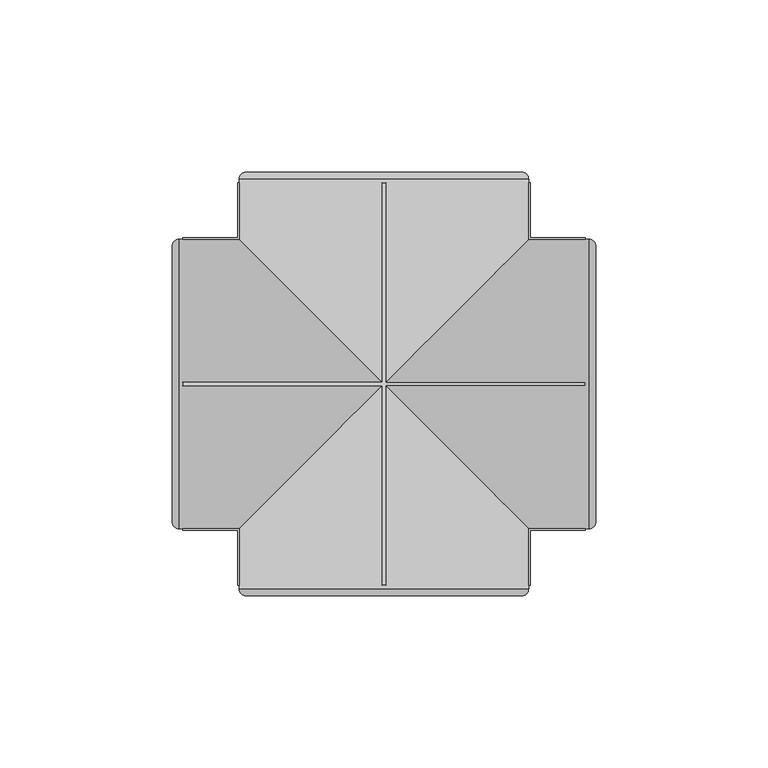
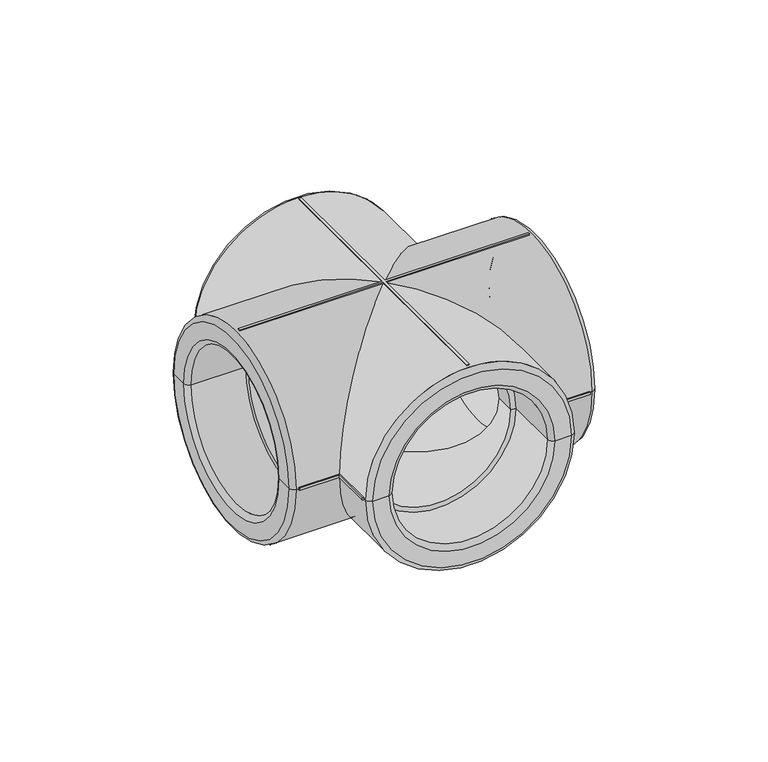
"""IFC4 building model written with IfcOpenShell, lengths in millimetres: pipe fitting geometry, EGB_VASEN_ PPR_Cruz WXR400 : EGB_VASEN_ PPR_Cruz WXR400."""

from ifc_helpers import new_model, si_unit, point, frame, origin, place, context, project, spatial, polyline, circle_curve, ellipse_curve, trimmed, source, transform, mapped, element, save
from ifc_brep_helpers import plane_surface, cylinder_surface, revolved_surface, advanced_brep


def pipe_fitting_be5e79b2(model_context):
    return source(origin(), model_context, "Body", "AdvancedBrep", [
        advanced_brep(
        [(-42.5, -58.5, 0.5), (-42.5, -58.5, -0.5), (-41.9970237, -58.5, -0.5), (-42.0, -58.5, 0.0), (-41.9970237, -58.5, 0.5), (42.5, -58.5, -0.5), (42.5, -58.5, 0.5), (41.9970237, -58.5, 0.5), (42.0, -58.5, 0.0), (41.9970237, -58.5, -0.5), (42.5, 58.5, 0.5), (42.5, 58.5, -0.5), (41.9970237, 58.5, -0.5), (42.0, 58.5, 0.0), (41.9970237, 58.5, 0.5), (-42.5, 58.5, -0.5), (-42.5, 58.5, 0.5), (-41.9970237, 58.5, 0.5), (-42.0, 58.5, 0.0), (-41.9970237, 58.5, -0.5), (42.5, -42.5, -0.5), (42.5, -42.5, 0.5), (42.5, 42.5, 0.5), (42.5, 42.5, -0.5), (41.9970237, -41.9970237, -0.5), (58.5, -41.9970237, -0.5), (58.5, -42.5, -0.5), (58.5, 42.5, -0.5), (58.5, 41.9970237, -0.5), (41.9970237, 41.9970237, -0.5), (-42.5, -42.5, -0.5), (-58.5, -42.5, -0.5), (-58.5, -41.9970237, -0.5), (-41.9970237, -41.9970237, -0.5), (-42.5, 42.5, -0.5), (-41.9970237, 41.9970237, -0.5), (-58.5, 41.9970237, -0.5), (-58.5, 42.5, -0.5), (-42.5, -42.5, 0.5), (-42.5, 42.5, 0.5), (58.5, -42.5, 0.5), (58.5, -41.9970237, 0.5), (41.9970237, -41.9970237, 0.5), (41.9970237, 41.9970237, 0.5), (58.5, 41.9970237, 0.5), (58.5, 42.5, 0.5), (-41.9970237, -41.9970237, 0.5), (-58.5, -41.9970237, 0.5), (-58.5, -42.5, 0.5), (-58.5, 42.5, 0.5), (-58.5, 41.9970237, 0.5), (-41.9970237, 41.9970237, 0.5), (58.5, -42.0, 0.0), (58.5, 42.0, 0.0), (-58.5, 42.0, 0.0), (-58.5, -42.0, 0.0), (-40.0000002, 61.5, 0.0), (-33.5, 61.5, 0.0), (33.5, 61.5, 0.0), (40.0, 61.5, 0.0), (42.0, -59.5000012, 0.0), (-42.0, -59.5, 0.0), (-0.5, -0.5, -41.9970237), (-0.5, -58.5, -41.9970237), (0.5, -58.5, -41.9970237), (0.5, -0.5, -41.9970237), (-42.0, 59.5, 0.0), (42.0, 59.5, 0.0), (0.5, 0.5, -41.9970237), (0.5, 58.5, -41.9970237), (-0.5, 58.5, -41.9970237), (-0.5, 0.5, -41.9970237), (0.5, -0.5, 41.9970237), (0.5, -58.5, 41.9970237), (-0.5, -58.5, 41.9970237), (-0.5, -0.5, 41.9970237), (-0.5, 0.5, 41.9970237), (-0.5, 58.5, 41.9970237), (0.5, 58.5, 41.9970237), (0.5, 0.5, 41.9970237), (40.0, -61.5, 0.0), (33.5, -61.5, 0.0), (-33.5, -61.5, 0.0), (-40.0, -61.5, 0.0), (59.5, 42.0, 0.0), (59.5, -42.0, 0.0), (58.5, -0.5, -41.9970237), (58.5, 0.5, -41.9970237), (-58.5, 0.5, -41.9970237), (-58.5, -0.5, -41.9970237), (-59.5000011, -42.0, 0.0), (-59.5, 42.0, 0.0), (58.5, 0.5, 41.9970237), (58.5, -0.5, 41.9970237), (-58.5, -0.5, 41.9970237), (-58.5, 0.5, 41.9970237), (-61.5, -40.0, 0.0), (-61.5, -33.5, 0.0), (-61.5, 33.5, 0.0), (-61.5, 40.0, 0.0), (61.5, 40.0000002, 0.0), (61.5, 33.5, 0.0), (61.5, -33.5, 0.0), (61.5, -40.0, 0.0), (58.5, 0.5, 42.5), (58.5, -0.5, 42.5), (58.5, -0.5, -42.5), (58.5, 0.5, -42.5), (-58.5, 0.5, -42.5), (-58.5, -0.5, -42.5), (-58.5, -0.5, 42.5), (-58.5, 0.5, 42.5), (0.5, 0.5, 42.5), (0.5, 58.5, 42.5), (-0.5, 58.5, 42.5), (-0.5, 0.5, 42.5), (-0.5, -0.5, 42.5), (-0.5, -58.5, 42.5), (0.5, -58.5, 42.5), (0.5, -0.5, 42.5), (0.5, -0.5, -42.5), (-0.5, -0.5, -42.5), (0.5, -58.5, -42.5), (-0.5, -58.5, -42.5), (-0.5, 0.5, -42.5), (-0.5, 58.5, -42.5), (0.5, 58.5, -42.5), (0.5, 0.5, -42.5), (31.5, -37.5, 0.0), (29.5, -37.5, 0.0), (-29.5, -37.5, 0.0), (-31.5, -37.5, 0.0), (-31.5, -59.5, 0.0), (31.5, -59.5, 0.0), (31.5, 59.5, 0.0), (-31.5, 59.5, 0.0), (-31.5, 37.5, 0.0), (31.5, 37.5, 0.0), (-29.5, 37.5, 0.0), (29.5, 37.5, 0.0), (29.5, -29.5, 0.0), (0.0, 0.0, -29.5), (-29.5, -29.5, 0.0), (-29.5, 29.5, 0.0), (29.5, 29.5, 0.0), (0.0, 0.0, 29.5), (59.5, -31.5, 0.0), (59.5, 31.5, 0.0), (37.5, 31.5, 0.0), (37.5, -31.5, 0.0), (37.5, 29.5, 0.0), (37.5, -29.5, 0.0), (-37.5, 29.5, 0.0), (-37.5, -29.5, 0.0), (-37.5, 31.5, 0.0), (-37.5, -31.5, 0.0), (-59.5, 31.5, 0.0), (-59.5, -31.5, 0.0)],
        [
            (0, 1),
            (1, 2),
            (2, 3, circle_curve(frame((0.0, -58.5, 0.0), z_axis=(0.0, 1.0, 0.0), x_axis=(-1.0, 0.0, 0.0)), 42.0)),
            (3, 4, circle_curve(frame((0.0, -58.5, 0.0), z_axis=(0.0, 1.0, 0.0), x_axis=(-1.0, 0.0, 0.0)), 42.0)),
            (4, 0),
            (5, 6),
            (6, 7),
            (7, 8, circle_curve(frame((0.0, -58.5, 0.0), z_axis=(0.0, 1.0, 0.0), x_axis=(-1.0, 0.0, 0.0)), 42.0)),
            (8, 9, circle_curve(frame((0.0, -58.5, 0.0), z_axis=(0.0, 1.0, 0.0), x_axis=(-1.0, 0.0, 0.0)), 42.0)),
            (9, 5),
            (10, 11),
            (11, 12),
            (12, 13, circle_curve(frame((0.0, 58.5, 0.0), z_axis=(0.0, -1.0, 0.0), x_axis=(-1.0, 0.0, 0.0)), 42.0)),
            (13, 14, circle_curve(frame((0.0, 58.5, 0.0), z_axis=(0.0, -1.0, 0.0), x_axis=(-1.0, 0.0, 0.0)), 42.0)),
            (14, 10),
            (15, 16),
            (16, 17),
            (17, 18, circle_curve(frame((0.0, 58.5, 0.0), z_axis=(0.0, -1.0, 0.0), x_axis=(-1.0, 0.0, 0.0)), 42.0)),
            (18, 19, circle_curve(frame((0.0, 58.5, 0.0), z_axis=(0.0, -1.0, 0.0), x_axis=(-1.0, 0.0, 0.0)), 42.0)),
            (19, 15),
            (5, 20),
            (20, 21),
            (21, 6),
            (10, 22),
            (22, 23),
            (23, 11),
            (9, 24),
            (24, 25),
            (25, 26),
            (26, 20),
            (23, 27),
            (27, 28),
            (28, 29),
            (29, 12),
            (1, 30),
            (30, 31),
            (31, 32),
            (32, 33),
            (33, 2),
            (34, 15),
            (19, 35),
            (35, 36),
            (36, 37),
            (37, 34),
            (0, 38),
            (38, 30),
            (34, 39),
            (39, 16),
            (21, 40),
            (40, 41),
            (41, 42),
            (42, 7),
            (14, 43),
            (43, 44),
            (44, 45),
            (45, 22),
            (4, 46),
            (46, 47),
            (47, 48),
            (48, 38),
            (39, 49),
            (49, 50),
            (50, 51),
            (51, 17),
            (40, 26),
            (25, 52, circle_curve(frame((58.5, 0.0, 0.0), z_axis=(-1.0, 0.0, 0.0), x_axis=(0.0, 1.0, 0.0)), 42.0)),
            (52, 41, circle_curve(frame((58.5, 0.0, 0.0), z_axis=(-1.0, 0.0, 0.0), x_axis=(0.0, 1.0, 0.0)), 42.0)),
            (27, 45),
            (44, 53, circle_curve(frame((58.5, 0.0, 0.0), z_axis=(-1.0, 0.0, 0.0), x_axis=(0.0, 1.0, 0.0)), 42.0)),
            (53, 28, circle_curve(frame((58.5, 0.0, 0.0), z_axis=(-1.0, 0.0, 0.0), x_axis=(0.0, 1.0, 0.0)), 42.0)),
            (49, 37),
            (36, 54, circle_curve(frame((-58.5, 0.0, 0.0), z_axis=(1.0, 0.0, 0.0), x_axis=(0.0, 1.0, 0.0)), 42.0)),
            (54, 50, circle_curve(frame((-58.5, 0.0, 0.0), z_axis=(1.0, 0.0, 0.0), x_axis=(0.0, 1.0, 0.0)), 42.0)),
            (31, 48),
            (47, 55, circle_curve(frame((-58.5, 0.0, 0.0), z_axis=(1.0, 0.0, 0.0), x_axis=(0.0, 1.0, 0.0)), 42.0)),
            (55, 32, circle_curve(frame((-58.5, 0.0, 0.0), z_axis=(1.0, 0.0, 0.0), x_axis=(0.0, 1.0, 0.0)), 42.0)),
            (56, 57),
            (57, 58, circle_curve(frame((0.0, 61.5, 0.0), z_axis=(0.0, -1.0, 0.0), x_axis=(-1.0, 0.0, 0.0)), 33.5)),
            (58, 59),
            (59, 56, circle_curve(frame((0.0, 61.5, 0.0), z_axis=(0.0, 1.0, 0.0), x_axis=(-1.0, 0.0, 0.0)), 40.0)),
            (56, 59, circle_curve(frame((0.0, 61.5, 0.0), z_axis=(0.0, 1.0, 0.0), x_axis=(-1.0, 0.0, 0.0)), 40.0)),
            (58, 57, circle_curve(frame((0.0, 61.5, 0.0), z_axis=(0.0, -1.0, 0.0), x_axis=(-1.0, 0.0, 0.0)), 33.5)),
            (8, 60),
            (60, 61, circle_curve(frame((0.0, -59.5, 0.0), z_axis=(0.0, 1.0, 0.0), x_axis=(-1.0, 0.0, 0.0)), 42.0)),
            (61, 3),
            (33, 62, ellipse_curve(frame((0.0, 0.0, 0.0), z_axis=(0.7071067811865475, -0.7071067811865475, 0.0), x_axis=(-0.7071067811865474, -0.7071067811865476, 0.0)), 59.3969696, 42.0)),
            (62, 63),
            (63, 64, circle_curve(frame((0.0, -58.5, 0.0), z_axis=(0.0, -1.0, 0.0), x_axis=(-1.0, 0.0, 0.0)), 42.0)),
            (64, 65),
            (65, 24, ellipse_curve(frame((0.0, 0.0, 0.0), z_axis=(-0.7071067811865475, -0.7071067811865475, 0.0), x_axis=(0.7071067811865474, -0.7071067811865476, 0.0)), 59.3969696, 42.0)),
            (18, 66),
            (66, 67, circle_curve(frame((0.0, 59.5, 0.0), z_axis=(0.0, -1.0, 0.0), x_axis=(-1.0, 0.0, 0.0)), 42.0)),
            (67, 13),
            (29, 68, ellipse_curve(frame((0.0, 0.0, 0.0), z_axis=(-0.7071067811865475, 0.7071067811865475, 0.0), x_axis=(-0.7071067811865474, -0.7071067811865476, 0.0)), 59.3969696, 42.0)),
            (68, 69),
            (69, 70, circle_curve(frame((0.0, 58.5, 0.0), z_axis=(0.0, 1.0, 0.0), x_axis=(-1.0, 0.0, 0.0)), 42.0)),
            (70, 71),
            (71, 35, ellipse_curve(frame((0.0, 0.0, 0.0), z_axis=(0.7071067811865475, 0.7071067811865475, 0.0), x_axis=(0.7071067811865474, -0.7071067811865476, 0.0)), 59.3969696, 42.0)),
            (61, 60, circle_curve(frame((0.0, -59.5, 0.0), z_axis=(0.0, 1.0, 0.0), x_axis=(-1.0, 0.0, 0.0)), 42.0)),
            (42, 72, ellipse_curve(frame((0.0, 0.0, 0.0), z_axis=(-0.7071067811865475, -0.7071067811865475, 0.0), x_axis=(0.7071067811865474, -0.7071067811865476, 0.0)), 59.3969696, 42.0)),
            (72, 73),
            (73, 74, circle_curve(frame((0.0, -58.5, 0.0), z_axis=(0.0, -1.0, 0.0), x_axis=(-1.0, 0.0, 0.0)), 42.0)),
            (74, 75),
            (75, 46, ellipse_curve(frame((0.0, 0.0, 0.0), z_axis=(0.7071067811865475, -0.7071067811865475, 0.0), x_axis=(-0.7071067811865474, -0.7071067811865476, 0.0)), 59.3969696, 42.0)),
            (67, 66, circle_curve(frame((0.0, 59.5, 0.0), z_axis=(0.0, -1.0, 0.0), x_axis=(-1.0, 0.0, 0.0)), 42.0)),
            (51, 76, ellipse_curve(frame((0.0, 0.0, 0.0), z_axis=(0.7071067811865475, 0.7071067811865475, 0.0), x_axis=(0.7071067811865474, -0.7071067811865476, 0.0)), 59.3969696, 42.0)),
            (76, 77),
            (77, 78, circle_curve(frame((0.0, 58.5, 0.0), z_axis=(0.0, 1.0, 0.0), x_axis=(-1.0, 0.0, 0.0)), 42.0)),
            (78, 79),
            (79, 43, ellipse_curve(frame((0.0, 0.0, 0.0), z_axis=(-0.7071067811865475, 0.7071067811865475, 0.0), x_axis=(-0.7071067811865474, -0.7071067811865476, 0.0)), 59.3969696, 42.0)),
            (80, 81),
            (81, 82, circle_curve(frame((0.0, -61.5, 0.0), z_axis=(0.0, 1.0, 0.0), x_axis=(-1.0, 0.0, 0.0)), 33.5)),
            (82, 83),
            (83, 80, circle_curve(frame((0.0, -61.5, 0.0), z_axis=(0.0, -1.0, 0.0), x_axis=(-1.0, 0.0, 0.0)), 40.0)),
            (80, 83, circle_curve(frame((0.0, -61.5, 0.0), z_axis=(0.0, -1.0, 0.0), x_axis=(-1.0, 0.0, 0.0)), 40.0)),
            (82, 81, circle_curve(frame((0.0, -61.5, 0.0), z_axis=(0.0, 1.0, 0.0), x_axis=(-1.0, 0.0, 0.0)), 33.5)),
            (53, 84),
            (84, 85, circle_curve(frame((59.5, 0.0, 0.0), z_axis=(-1.0, 0.0, 0.0), x_axis=(0.0, 1.0, 0.0)), 42.0)),
            (85, 52),
            (65, 86),
            (86, 87, circle_curve(frame((58.5, 0.0, 0.0), z_axis=(1.0, 0.0, 0.0), x_axis=(0.0, 1.0, 0.0)), 42.0)),
            (87, 68),
            (71, 88),
            (88, 89, circle_curve(frame((-58.5, 0.0, 0.0), z_axis=(-1.0, 0.0, 0.0), x_axis=(0.0, 1.0, 0.0)), 42.0)),
            (89, 62),
            (55, 90),
            (90, 91, circle_curve(frame((-59.5, 0.0, 0.0), z_axis=(1.0, 0.0, 0.0), x_axis=(0.0, 1.0, 0.0)), 42.0)),
            (91, 54),
            (79, 92),
            (92, 93, circle_curve(frame((58.5, 0.0, 0.0), z_axis=(1.0, 0.0, 0.0), x_axis=(0.0, 1.0, 0.0)), 42.0)),
            (93, 72),
            (85, 84, circle_curve(frame((59.5, 0.0, 0.0), z_axis=(-1.0, 0.0, 0.0), x_axis=(0.0, 1.0, 0.0)), 42.0)),
            (91, 90, circle_curve(frame((-59.5, 0.0, 0.0), z_axis=(1.0, 0.0, 0.0), x_axis=(0.0, 1.0, 0.0)), 42.0)),
            (75, 94),
            (94, 95, circle_curve(frame((-58.5, 0.0, 0.0), z_axis=(-1.0, 0.0, 0.0), x_axis=(0.0, 1.0, 0.0)), 42.0)),
            (95, 76),
            (96, 97),
            (97, 98, circle_curve(frame((-61.5, 0.0, 0.0), z_axis=(1.0, 0.0, 0.0), x_axis=(0.0, 1.0, 0.0)), 33.5)),
            (98, 99),
            (99, 96, circle_curve(frame((-61.5, 0.0, 0.0), z_axis=(-1.0, 0.0, 0.0), x_axis=(0.0, 1.0, 0.0)), 40.0)),
            (96, 99, circle_curve(frame((-61.5, 0.0, 0.0), z_axis=(-1.0, 0.0, 0.0), x_axis=(0.0, 1.0, 0.0)), 40.0)),
            (98, 97, circle_curve(frame((-61.5, 0.0, 0.0), z_axis=(1.0, 0.0, 0.0), x_axis=(0.0, 1.0, 0.0)), 33.5)),
            (100, 101),
            (101, 102, circle_curve(frame((61.5, 0.0, 0.0), z_axis=(-1.0, 0.0, 0.0), x_axis=(0.0, 1.0, 0.0)), 33.5)),
            (102, 103),
            (103, 100, circle_curve(frame((61.5, 0.0, 0.0), z_axis=(1.0, 0.0, 0.0), x_axis=(0.0, 1.0, 0.0)), 40.0)),
            (100, 103, circle_curve(frame((61.5, 0.0, 0.0), z_axis=(1.0, 0.0, 0.0), x_axis=(0.0, 1.0, 0.0)), 40.0)),
            (102, 101, circle_curve(frame((61.5, 0.0, 0.0), z_axis=(-1.0, 0.0, 0.0), x_axis=(0.0, 1.0, 0.0)), 33.5)),
            (104, 105),
            (105, 93),
            (92, 104),
            (106, 107),
            (107, 87),
            (86, 106),
            (108, 109),
            (109, 89),
            (88, 108),
            (110, 111),
            (111, 95),
            (94, 110),
            (104, 112),
            (112, 113),
            (113, 114),
            (114, 115),
            (115, 111),
            (110, 116),
            (116, 117),
            (117, 118),
            (118, 119),
            (119, 105),
            (119, 72),
            (65, 120),
            (120, 106),
            (109, 121),
            (121, 62),
            (75, 116),
            (120, 122),
            (122, 123),
            (123, 121),
            (108, 124),
            (124, 125),
            (125, 126),
            (126, 127),
            (127, 107),
            (79, 112),
            (127, 68),
            (71, 124),
            (115, 76),
            (117, 74),
            (73, 118),
            (122, 64),
            (63, 123),
            (113, 78),
            (77, 114),
            (125, 70),
            (69, 126),
            (128, 129),
            (129, 130, circle_curve(frame((0.0, -37.5, 0.0), z_axis=(0.0, 1.0, 0.0), x_axis=(-1.0, 0.0, 0.0)), 29.5)),
            (130, 131),
            (131, 128, circle_curve(frame((0.0, -37.5, 0.0), z_axis=(0.0, -1.0, 0.0), x_axis=(-1.0, 0.0, 0.0)), 31.5)),
            (128, 131, circle_curve(frame((0.0, -37.5, 0.0), z_axis=(0.0, -1.0, 0.0), x_axis=(-1.0, 0.0, 0.0)), 31.5)),
            (130, 129, circle_curve(frame((0.0, -37.5, 0.0), z_axis=(0.0, 1.0, 0.0), x_axis=(-1.0, 0.0, 0.0)), 29.5)),
            (131, 132),
            (132, 133, circle_curve(frame((0.0, -59.5, 0.0), z_axis=(0.0, -1.0, 0.0), x_axis=(-1.0, 0.0, 0.0)), 31.5)),
            (133, 128),
            (133, 132, circle_curve(frame((0.0, -59.5, 0.0), z_axis=(0.0, -1.0, 0.0), x_axis=(-1.0, 0.0, 0.0)), 31.5)),
            (132, 82, circle_curve(frame((-33.5, -59.5, 0.0), z_axis=(0.0, 0.0, -1.0), x_axis=(1.0, 0.0, 0.0)), 2.0)),
            (81, 133, circle_curve(frame((33.5, -59.5, 0.0), z_axis=(0.0, 0.0, -1.0), x_axis=(-1.0, 0.0, 0.0)), 2.0)),
            (134, 58, circle_curve(frame((33.5, 59.5, 0.0), z_axis=(0.0, 0.0, -1.0), x_axis=(-1.0, 0.0, 0.0)), 2.0)),
            (57, 135, circle_curve(frame((-33.5, 59.5, 0.0), z_axis=(0.0, 0.0, -1.0), x_axis=(1.0, 0.0, 0.0)), 2.0)),
            (135, 134, circle_curve(frame((0.0, 59.5, 0.0), z_axis=(0.0, -1.0, 0.0), x_axis=(-1.0, 0.0, 0.0)), 31.5)),
            (134, 135, circle_curve(frame((0.0, 59.5, 0.0), z_axis=(0.0, -1.0, 0.0), x_axis=(-1.0, 0.0, 0.0)), 31.5)),
            (135, 136),
            (136, 137, circle_curve(frame((0.0, 37.5, 0.0), z_axis=(0.0, -1.0, 0.0), x_axis=(-1.0, 0.0, 0.0)), 31.5)),
            (137, 134),
            (137, 136, circle_curve(frame((0.0, 37.5, 0.0), z_axis=(0.0, -1.0, 0.0), x_axis=(-1.0, 0.0, 0.0)), 31.5)),
            (136, 138),
            (138, 139, circle_curve(frame((0.0, 37.5, 0.0), z_axis=(0.0, -1.0, 0.0), x_axis=(-1.0, 0.0, 0.0)), 29.5)),
            (139, 137),
            (139, 138, circle_curve(frame((0.0, 37.5, 0.0), z_axis=(0.0, -1.0, 0.0), x_axis=(-1.0, 0.0, 0.0)), 29.5)),
            (129, 140),
            (140, 141, ellipse_curve(frame((0.0, 0.0, 0.0), z_axis=(0.7071067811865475, 0.7071067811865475, 0.0), x_axis=(0.7071067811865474, -0.7071067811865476, 0.0)), 41.7193001, 29.5)),
            (141, 142, ellipse_curve(frame((0.0, 0.0, 0.0), z_axis=(-0.7071067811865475, 0.7071067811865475, 0.0), x_axis=(-0.7071067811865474, -0.7071067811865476, 0.0)), 41.7193001, 29.5)),
            (142, 130),
            (138, 143),
            (143, 141, ellipse_curve(frame((0.0, 0.0, 0.0), z_axis=(-0.7071067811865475, -0.7071067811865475, 0.0), x_axis=(0.7071067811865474, -0.7071067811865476, 0.0)), 41.7193001, 29.5)),
            (141, 144, ellipse_curve(frame((0.0, 0.0, 0.0), z_axis=(0.7071067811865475, -0.7071067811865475, 0.0), x_axis=(-0.7071067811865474, -0.7071067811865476, 0.0)), 41.7193001, 29.5)),
            (144, 139),
            (142, 145, ellipse_curve(frame((0.0, 0.0, 0.0), z_axis=(-0.7071067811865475, 0.7071067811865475, 0.0), x_axis=(-0.7071067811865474, -0.7071067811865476, 0.0)), 41.7193001, 29.5)),
            (145, 140, ellipse_curve(frame((0.0, 0.0, 0.0), z_axis=(0.7071067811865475, 0.7071067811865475, 0.0), x_axis=(0.7071067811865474, -0.7071067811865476, 0.0)), 41.7193001, 29.5)),
            (144, 145, ellipse_curve(frame((0.0, 0.0, 0.0), z_axis=(0.7071067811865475, -0.7071067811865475, 0.0), x_axis=(-0.7071067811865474, -0.7071067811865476, 0.0)), 41.7193001, 29.5)),
            (145, 143, ellipse_curve(frame((0.0, 0.0, 0.0), z_axis=(-0.7071067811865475, -0.7071067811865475, 0.0), x_axis=(0.7071067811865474, -0.7071067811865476, 0.0)), 41.7193001, 29.5)),
            (59, 67, circle_curve(frame((40.0, 59.5, 0.0), z_axis=(0.0, 0.0, -1.0), x_axis=(-1.0, 0.0, 0.0)), 2.0)),
            (66, 56, circle_curve(frame((-40.0, 59.5, 0.0), z_axis=(0.0, 0.0, -1.0), x_axis=(1.0, 0.0, 0.0)), 2.0)),
            (60, 80, circle_curve(frame((40.0, -59.5, 0.0), z_axis=(0.0, 0.0, -1.0), x_axis=(-1.0, 0.0, 0.0)), 2.0)),
            (83, 61, circle_curve(frame((-40.0, -59.5, 0.0), z_axis=(0.0, 0.0, -1.0), x_axis=(1.0, 0.0, 0.0)), 2.0)),
            (103, 85, circle_curve(frame((59.5, -40.0, 0.0), z_axis=(0.0, 0.0, -1.0), x_axis=(1.0, 0.0, 0.0)), 2.0)),
            (84, 100, circle_curve(frame((59.5, 40.0, 0.0), z_axis=(0.0, 0.0, -1.0), x_axis=(1.0, 0.0, 0.0)), 2.0)),
            (146, 102, circle_curve(frame((59.5, -33.5, 0.0), z_axis=(0.0, 0.0, -1.0), x_axis=(1.0, 0.0, 0.0)), 2.0)),
            (101, 147, circle_curve(frame((59.5, 33.5, 0.0), z_axis=(0.0, 0.0, -1.0), x_axis=(1.0, 0.0, 0.0)), 2.0)),
            (147, 146, circle_curve(frame((59.5, 0.0, 0.0), z_axis=(-1.0, 0.0, 0.0), x_axis=(0.0, 1.0, 0.0)), 31.5)),
            (146, 147, circle_curve(frame((59.5, 0.0, 0.0), z_axis=(-1.0, 0.0, 0.0), x_axis=(0.0, 1.0, 0.0)), 31.5)),
            (147, 148),
            (148, 149, circle_curve(frame((37.5, 0.0, 0.0), z_axis=(-1.0, 0.0, 0.0), x_axis=(0.0, 1.0, 0.0)), 31.5)),
            (149, 146),
            (149, 148, circle_curve(frame((37.5, 0.0, 0.0), z_axis=(-1.0, 0.0, 0.0), x_axis=(0.0, 1.0, 0.0)), 31.5)),
            (148, 150),
            (150, 151, circle_curve(frame((37.5, 0.0, 0.0), z_axis=(-1.0, 0.0, 0.0), x_axis=(0.0, 1.0, 0.0)), 29.5)),
            (151, 149),
            (151, 150, circle_curve(frame((37.5, 0.0, 0.0), z_axis=(-1.0, 0.0, 0.0), x_axis=(0.0, 1.0, 0.0)), 29.5)),
            (150, 144),
            (140, 151),
            (152, 153, circle_curve(frame((-37.5, 0.0, 0.0), z_axis=(-1.0, 0.0, 0.0), x_axis=(0.0, 1.0, 0.0)), 29.5)),
            (153, 142),
            (143, 152),
            (153, 152, circle_curve(frame((-37.5, 0.0, 0.0), z_axis=(-1.0, 0.0, 0.0), x_axis=(0.0, 1.0, 0.0)), 29.5)),
            (152, 154),
            (154, 155, circle_curve(frame((-37.5, 0.0, 0.0), z_axis=(-1.0, 0.0, 0.0), x_axis=(0.0, 1.0, 0.0)), 31.5)),
            (155, 153),
            (155, 154, circle_curve(frame((-37.5, 0.0, 0.0), z_axis=(-1.0, 0.0, 0.0), x_axis=(0.0, 1.0, 0.0)), 31.5)),
            (154, 156),
            (156, 157, circle_curve(frame((-59.5, 0.0, 0.0), z_axis=(-1.0, 0.0, 0.0), x_axis=(0.0, 1.0, 0.0)), 31.5)),
            (157, 155),
            (157, 156, circle_curve(frame((-59.5, 0.0, 0.0), z_axis=(-1.0, 0.0, 0.0), x_axis=(0.0, 1.0, 0.0)), 31.5)),
            (156, 98, circle_curve(frame((-59.5, 33.5, 0.0), z_axis=(0.0, 0.0, -1.0), x_axis=(1.0, 0.0, 0.0)), 2.0)),
            (97, 157, circle_curve(frame((-59.5, -33.5, 0.0), z_axis=(0.0, 0.0, -1.0), x_axis=(1.0, 0.0, 0.0)), 2.0)),
            (90, 96, circle_curve(frame((-59.5, -40.0, 0.0), z_axis=(0.0, 0.0, -1.0), x_axis=(1.0, 0.0, 0.0)), 2.0)),
            (99, 91, circle_curve(frame((-59.5, 40.0, 0.0), z_axis=(0.0, 0.0, -1.0), x_axis=(1.0, 0.0, 0.0)), 2.0)),
        ],
        [
            plane_surface(frame((42.5, -58.5, 0.5), z_axis=(0.0, -1.0, 0.0), x_axis=(0.0, 0.0, 1.0))),
            plane_surface(frame((42.5, 58.5, 0.5), z_axis=(0.0, 1.0, 0.0), x_axis=(0.0, 0.0, -1.0))),
            plane_surface(frame((42.5, 58.5, 0.5), z_axis=(1.0, 0.0, 0.0), x_axis=(0.0, -1.0, 0.0))),
            plane_surface(frame((42.5, 58.5, -0.5), z_axis=(0.0, 0.0, -1.0), x_axis=(0.0, -1.0, 0.0))),
            plane_surface(frame((-42.5, 58.5, -0.5), z_axis=(-1.0, 0.0, 0.0), x_axis=(0.0, -1.0, 0.0))),
            plane_surface(frame((-42.5, 58.5, 0.5), z_axis=(0.0, 0.0, 1.0), x_axis=(0.0, -1.0, 0.0))),
            plane_surface(frame((58.5, -42.5, 0.5), z_axis=(1.0, 0.0, 0.0), x_axis=(0.0, -1.0, 0.0))),
            plane_surface(frame((-58.5, -42.5, 0.5), z_axis=(-1.0, 0.0, 0.0), x_axis=(0.0, 1.0, 0.0))),
            plane_surface(frame((58.5, -42.5, 0.5), z_axis=(0.0, -1.0, 0.0), x_axis=(-1.0, 0.0, 0.0))),
            plane_surface(frame((58.5, 42.5, -0.5), z_axis=(0.0, 1.0, 0.0), x_axis=(-1.0, 0.0, 0.0))),
            plane_surface(frame((0.0, 61.5, 0.0), z_axis=(0.0, 1.0, 0.0), x_axis=(-1.0, 0.0, 0.0))),
            cylinder_surface(frame((0.0, 2034.5, 0.0), z_axis=(0.0, -1.0, 0.0), x_axis=(-1.0, 0.0, 0.0)), 42.0),
            plane_surface(frame((0.0, -61.5, 0.0), z_axis=(0.0, -1.0, 0.0), x_axis=(-1.0, 0.0, 0.0))),
            cylinder_surface(frame((2034.5, 0.0, 0.0), z_axis=(-1.0, 0.0, 0.0), x_axis=(0.0, 1.0, 0.0)), 42.0),
            plane_surface(frame((-61.5, 0.0, 0.0), z_axis=(-1.0, 0.0, 0.0), x_axis=(0.0, 1.0, 0.0))),
            plane_surface(frame((61.5, 0.0, 0.0), z_axis=(1.0, 0.0, 0.0), x_axis=(0.0, 1.0, 0.0))),
            plane_surface(frame((58.5, -0.5, 42.5), z_axis=(1.0, 0.0, 0.0), x_axis=(0.0, -1.0, 0.0))),
            plane_surface(frame((-58.5, -0.5, 42.5), z_axis=(-1.0, 0.0, 0.0), x_axis=(0.0, 1.0, 0.0))),
            plane_surface(frame((58.5, 0.5, 42.5), z_axis=(0.0, 0.0, 1.0), x_axis=(-1.0, 0.0, 0.0))),
            plane_surface(frame((58.5, -0.5, 42.5), z_axis=(0.0, -1.0, 0.0), x_axis=(-1.0, 0.0, 0.0))),
            plane_surface(frame((58.5, -0.5, -42.5), z_axis=(0.0, 0.0, -1.0), x_axis=(-1.0, 0.0, 0.0))),
            plane_surface(frame((58.5, 0.5, -42.5), z_axis=(0.0, 1.0, 0.0), x_axis=(-1.0, 0.0, 0.0))),
            plane_surface(frame((0.5, -58.5, 42.5), z_axis=(0.0, -1.0, 0.0), x_axis=(0.0, 0.0, 1.0))),
            plane_surface(frame((0.5, 58.5, 42.5), z_axis=(0.0, 1.0, 0.0), x_axis=(0.0, 0.0, -1.0))),
            plane_surface(frame((0.5, 58.5, 42.5), z_axis=(1.0, 0.0, 0.0), x_axis=(0.0, -1.0, 0.0))),
            plane_surface(frame((-0.5, 58.5, -42.5), z_axis=(-1.0, 0.0, 0.0), x_axis=(0.0, -1.0, 0.0))),
            plane_surface(frame((0.0, -37.5, 0.0), z_axis=(0.0, -1.0, 0.0), x_axis=(-1.0, 0.0, 0.0))),
            revolved_surface(polyline([(-31.5, -59.5, 0.0), (-31.5, -37.5, 0.0)]), (0.0, 2034.5, 0.0), (0.0, -1.0, 0.0)),
            revolved_surface(trimmed(ellipse_curve(frame((-33.5, -59.5, 0.0), z_axis=(0.0, 0.0, 1.0), x_axis=(1.0, 0.0, 0.0)), 2.0, 2.0), [point((-33.5, -61.5, 0.0))], [point((-31.5, -59.5, 0.0))], True, "CARTESIAN"), (0.0, 2034.5, 0.0), (0.0, -1.0, 0.0)),
            revolved_surface(trimmed(ellipse_curve(frame((-33.5, 59.5, 0.0), z_axis=(0.0, 0.0, 1.0), x_axis=(1.0, 0.0, 0.0)), 2.0, 2.0), [point((-31.5, 59.5, 0.0))], [point((-33.5, 61.5, 0.0))], True, "CARTESIAN"), (0.0, 2034.5, 0.0), (0.0, -1.0, 0.0)),
            revolved_surface(polyline([(-31.5, 37.5, 0.0), (-31.5, 59.5, 0.0)]), (0.0, 2034.5, 0.0), (0.0, -1.0, 0.0)),
            plane_surface(frame((0.0, 37.5, 0.0), z_axis=(0.0, 1.0, 0.0), x_axis=(-1.0, 0.0, 0.0))),
            revolved_surface(polyline([(-29.5, -37.5, 0.0), (-29.5, 29.500000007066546, 0.0)]), (0.0, 2034.5, 0.0), (0.0, -1.0, 0.0)),
            revolved_surface(polyline([(-29.5, -29.500000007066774, 0.0), (-29.5, 37.5, 0.0)]), (0.0, 2034.5, 0.0), (0.0, -1.0, 0.0)),
            revolved_surface(trimmed(ellipse_curve(frame((-40.0, 59.5, 0.0), z_axis=(0.0, 0.0, 1.0), x_axis=(1.0, 0.0, 0.0)), 2.0, 2.0), [point((-40.0, 61.5, 0.0))], [point((-42.0, 59.5, 0.0))], True, "CARTESIAN"), (0.0, 2034.5, 0.0), (0.0, -1.0, 0.0)),
            revolved_surface(trimmed(ellipse_curve(frame((-40.0, -59.5, 0.0), z_axis=(0.0, 0.0, 1.0), x_axis=(1.0, 0.0, 0.0)), 2.0, 2.0), [point((-42.0, -59.5, 0.0))], [point((-40.0, -61.5, 0.0))], True, "CARTESIAN"), (0.0, 2034.5, 0.0), (0.0, -1.0, 0.0)),
            revolved_surface(trimmed(ellipse_curve(frame((59.5, 40.0, 0.0), z_axis=(0.0, 0.0, 1.0), x_axis=(1.0, 0.0, 0.0)), 2.0, 2.0), [point((61.5, 40.0, 0.0))], [point((59.5, 42.0, 0.0))], True, "CARTESIAN"), (2034.5, 0.0, 0.0), (-1.0, 0.0, 0.0)),
            revolved_surface(trimmed(ellipse_curve(frame((59.5, 33.5, 0.0), z_axis=(0.0, 0.0, 1.0), x_axis=(1.0, 0.0, 0.0)), 2.0, 2.0), [point((59.5, 31.5, 0.0))], [point((61.5, 33.5, 0.0))], True, "CARTESIAN"), (2034.5, 0.0, 0.0), (-1.0, 0.0, 0.0)),
            revolved_surface(polyline([(37.5, 31.5, 0.0), (59.5, 31.5, 0.0)]), (2034.5, 0.0, 0.0), (-1.0, 0.0, 0.0)),
            plane_surface(frame((37.5, 0.0, 0.0), z_axis=(1.0, 0.0, 0.0), x_axis=(0.0, 1.0, 0.0))),
            revolved_surface(polyline([(-29.500000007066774, 29.5, 0.0), (37.5, 29.5, 0.0)]), (2034.5, 0.0, 0.0), (-1.0, 0.0, 0.0)),
            revolved_surface(polyline([(-37.5, 29.5, 0.0), (29.500000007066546, 29.5, 0.0)]), (2034.5, 0.0, 0.0), (-1.0, 0.0, 0.0)),
            plane_surface(frame((-37.5, 0.0, 0.0), z_axis=(-1.0, 0.0, 0.0), x_axis=(0.0, 1.0, 0.0))),
            revolved_surface(polyline([(-59.5, 31.5, 0.0), (-37.5, 31.5, 0.0)]), (2034.5, 0.0, 0.0), (-1.0, 0.0, 0.0)),
            revolved_surface(trimmed(ellipse_curve(frame((-59.5, 33.5, 0.0), z_axis=(0.0, 0.0, 1.0), x_axis=(1.0, 0.0, 0.0)), 2.0, 2.0), [point((-61.5, 33.5, 0.0))], [point((-59.5, 31.5, 0.0))], True, "CARTESIAN"), (2034.5, 0.0, 0.0), (-1.0, 0.0, 0.0)),
            revolved_surface(trimmed(ellipse_curve(frame((-59.5, 40.0, 0.0), z_axis=(0.0, 0.0, 1.0), x_axis=(1.0, 0.0, 0.0)), 2.0, 2.0), [point((-59.5, 42.0, 0.0))], [point((-61.5, 40.0, 0.0))], True, "CARTESIAN"), (2034.5, 0.0, 0.0), (-1.0, 0.0, 0.0)),
        ],
        [
            (0, [[1, 2, 3, 4, 5]]),
            (0, [[6, 7, 8, 9, 10]]),
            (1, [[11, 12, 13, 14, 15]]),
            (1, [[16, 17, 18, 19, 20]]),
            (2, [[-6, 21, 22, 23]]),
            (2, [[-11, 24, 25, 26]]),
            (3, [[-21, -10, 27, 28, 29, 30]]),
            (3, [[-26, 31, 32, 33, 34, -12]]),
            (3, [[35, 36, 37, 38, 39, -2]]),
            (3, [[40, -20, 41, 42, 43, 44]]),
            (4, [[-1, 45, 46, -35]]),
            (4, [[-16, -40, 47, 48]]),
            (5, [[-23, 49, 50, 51, 52, -7]]),
            (5, [[-24, -15, 53, 54, 55, 56]]),
            (5, [[-45, -5, 57, 58, 59, 60]]),
            (5, [[-48, 61, 62, 63, 64, -17]]),
            (6, [[65, -29, 66, 67, -50]]),
            (6, [[68, -55, 69, 70, -32]]),
            (7, [[71, -43, 72, 73, -62]]),
            (7, [[74, -59, 75, 76, -37]]),
            (8, [[-65, -49, -22, -30]]),
            (8, [[-74, -36, -46, -60]]),
            (9, [[-68, -31, -25, -56]]),
            (9, [[-71, -61, -47, -44]]),
            (10, [[77, 78, 79, 80]]),
            (10, [[-77, 81, -79, 82]]),
            (11, [[-9, 83, 84, 85, -3, -39, 86, 87, 88, 89, 90, -27]]),
            (11, [[-19, 91, 92, 93, -13, -34, 94, 95, 96, 97, 98, -41]]),
            (11, [[-4, -85, 99, -83, -8, -52, 100, 101, 102, 103, 104, -57]]),
            (11, [[-14, -93, 105, -91, -18, -64, 106, 107, 108, 109, 110, -53]]),
            (12, [[111, 112, 113, 114]]),
            (12, [[-111, 115, -113, 116]]),
            (13, [[-33, -70, 117, 118, 119, -66, -28, -90, 120, 121, 122, -94]]),
            (13, [[-42, -98, 123, 124, 125, -86, -38, -76, 126, 127, 128, -72]]),
            (13, [[-54, -110, 129, 130, 131, -100, -51, -67, -119, 132, -117, -69]]),
            (13, [[-63, -73, -128, 133, -126, -75, -58, -104, 134, 135, 136, -106]]),
            (14, [[137, 138, 139, 140]]),
            (14, [[-137, 141, -139, 142]]),
            (15, [[143, 144, 145, 146]]),
            (15, [[-143, 147, -145, 148]]),
            (16, [[149, 150, -130, 151]]),
            (16, [[152, 153, -121, 154]]),
            (17, [[155, 156, -124, 157]]),
            (17, [[158, 159, -135, 160]]),
            (18, [[-149, 161, 162, 163, 164, 165, -158, 166, 167, 168, 169, 170]]),
            (19, [[-150, -170, 171, -131]]),
            (19, [[-154, -120, 172, 173]]),
            (19, [[-156, 174, 175, -125]]),
            (19, [[-160, -134, 176, -166]]),
            (20, [[-152, -173, 177, 178, 179, -174, -155, 180, 181, 182, 183, 184]]),
            (21, [[-151, -129, 185, -161]]),
            (21, [[-153, -184, 186, -122]]),
            (21, [[-157, -123, 187, -180]]),
            (21, [[-159, -165, 188, -136]]),
            (22, [[-168, 189, -102, 190]]),
            (22, [[-178, 191, -88, 192]]),
            (23, [[-163, 193, -108, 194]]),
            (23, [[-182, 195, -96, 196]]),
            (24, [[-162, -185, -109, -193]]),
            (24, [[-169, -190, -101, -171]]),
            (24, [[-177, -172, -89, -191]]),
            (24, [[-183, -196, -95, -186]]),
            (25, [[-164, -194, -107, -188]]),
            (25, [[-167, -176, -103, -189]]),
            (25, [[-179, -192, -87, -175]]),
            (25, [[-181, -187, -97, -195]]),
            (26, [[197, 198, 199, 200]]),
            (26, [[-197, 201, -199, 202]]),
            (27, [[-200, 203, 204, 205]]),
            (27, [[-201, -205, 206, -203]]),
            (28, [[-204, 207, -112, 208]]),
            (28, [[-206, -208, -116, -207]]),
            (29, [[209, -78, 210, 211]]),
            (29, [[-209, 212, -210, -82]]),
            (30, [[-211, 213, 214, 215]]),
            (30, [[-212, -215, 216, -213]]),
            (31, [[-214, 217, 218, 219]]),
            (31, [[-216, -219, 220, -217]]),
            (32, [[-198, 221, 222, 223, 224]]),
            (33, [[-218, 225, 226, 227, 228]]),
            (32, [[-202, -224, 229, 230, -221]]),
            (33, [[-220, -228, 231, 232, -225]]),
            (34, [[233, -92, 234, -80]]),
            (34, [[-233, -81, -234, -105]]),
            (35, [[235, -114, 236, -84]]),
            (35, [[-235, -99, -236, -115]]),
            (36, [[237, -118, 238, -146]]),
            (36, [[-237, -147, -238, -132]]),
            (37, [[239, -144, 240, 241]]),
            (37, [[-239, 242, -240, -148]]),
            (38, [[-241, 243, 244, 245]]),
            (38, [[-242, -245, 246, -243]]),
            (39, [[-244, 247, 248, 249]]),
            (39, [[-246, -249, 250, -247]]),
            (40, [[-248, 251, -227, -222, 252]]),
            (41, [[253, 254, -223, -226, 255]]),
            (40, [[-250, -252, -230, -231, -251]]),
            (41, [[256, -255, -232, -229, -254]]),
            (42, [[-253, 257, 258, 259]]),
            (42, [[-256, -259, 260, -257]]),
            (43, [[-258, 261, 262, 263]]),
            (43, [[-260, -263, 264, -261]]),
            (44, [[-262, 265, -138, 266]]),
            (44, [[-264, -266, -142, -265]]),
            (45, [[267, -140, 268, -127]]),
            (45, [[-267, -133, -268, -141]]),
        ],
    ),
    ])


if __name__ == "__main__":
    model = new_model("IFC4")
    model_context = context("Model", 3, world=origin())
    ifc_project = project(units=[si_unit("LENGTHUNIT", "METRE", prefix="MILLI")], contexts=[model_context])
    site = spatial("IfcSite", under=ifc_project)
    building = spatial("IfcBuilding", under=site)
    placement = place(None, origin())
    pipe_fitting_shape = pipe_fitting_be5e79b2(model_context)
    element("IfcPipeFitting", 1, ObjectType="EGB_VASEN_ PPR_Cruz WXR400 : EGB_VASEN_ PPR_Cruz WXR400", at=placement, inside=building, context=model_context, shape_type="MappedRepresentation", body=[
        mapped(pipe_fitting_shape, transform((0.0, 0.0, 0.0), x_axis=(1.0, 0.0, 0.0), y_axis=(0.0, 1.0, 0.0), z_axis=(0.0, 0.0, 1.0))),
    ])
    save(model, "model.ifc")
